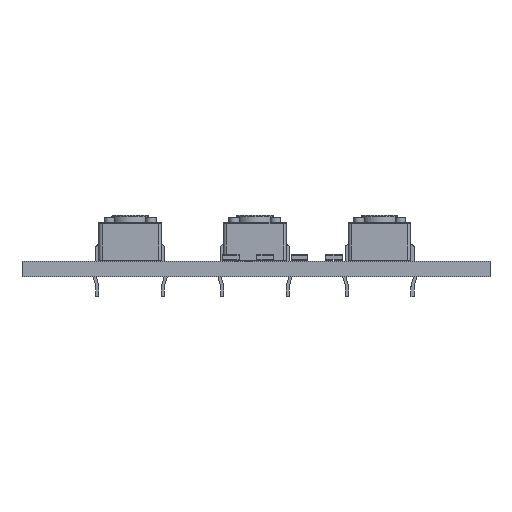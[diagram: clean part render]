
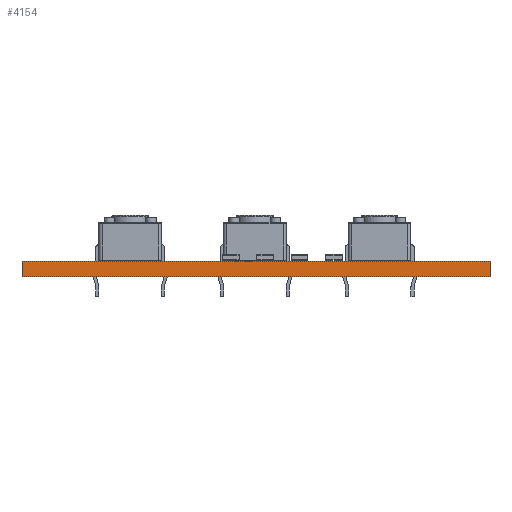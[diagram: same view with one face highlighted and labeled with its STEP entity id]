
A CAD part, front view. The second image highlights one B-rep face of the part: STEP entity #4154.
In plain terms, the highlighted planar face has unit normal (0, -1, 0).
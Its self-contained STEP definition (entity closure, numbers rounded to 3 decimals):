
#4154 = ADVANCED_FACE('',(#4155),#4189,.T.);
#4155 = FACE_BOUND('',#4156,.T.);
#4156 = EDGE_LOOP('',(#4157,#4167,#4175,#4183));
#4157 = ORIENTED_EDGE('',*,*,#4158,.T.);
#4158 = EDGE_CURVE('',#4159,#4161,#4163,.T.);
#4159 = VERTEX_POINT('',#4160);
#4160 = CARTESIAN_POINT('',(169.5,-190.5,0.));
#4161 = VERTEX_POINT('',#4162);
#4162 = CARTESIAN_POINT('',(169.5,-190.5,1.51));
#4163 = LINE('',#4164,#4165);
#4164 = CARTESIAN_POINT('',(169.5,-190.5,0.));
#4165 = VECTOR('',#4166,1.);
#4166 = DIRECTION('',(0.,0.,1.));
#4167 = ORIENTED_EDGE('',*,*,#4168,.T.);
#4168 = EDGE_CURVE('',#4161,#4169,#4171,.T.);
#4169 = VERTEX_POINT('',#4170);
#4170 = CARTESIAN_POINT('',(124.5,-190.5,1.51));
#4171 = LINE('',#4172,#4173);
#4172 = CARTESIAN_POINT('',(169.5,-190.5,1.51));
#4173 = VECTOR('',#4174,1.);
#4174 = DIRECTION('',(-1.,0.,0.));
#4175 = ORIENTED_EDGE('',*,*,#4176,.F.);
#4176 = EDGE_CURVE('',#4177,#4169,#4179,.T.);
#4177 = VERTEX_POINT('',#4178);
#4178 = CARTESIAN_POINT('',(124.5,-190.5,0.));
#4179 = LINE('',#4180,#4181);
#4180 = CARTESIAN_POINT('',(124.5,-190.5,0.));
#4181 = VECTOR('',#4182,1.);
#4182 = DIRECTION('',(0.,0.,1.));
#4183 = ORIENTED_EDGE('',*,*,#4184,.F.);
#4184 = EDGE_CURVE('',#4159,#4177,#4185,.T.);
#4185 = LINE('',#4186,#4187);
#4186 = CARTESIAN_POINT('',(169.5,-190.5,0.));
#4187 = VECTOR('',#4188,1.);
#4188 = DIRECTION('',(-1.,0.,0.));
#4189 = PLANE('',#4190);
#4190 = AXIS2_PLACEMENT_3D('',#4191,#4192,#4193);
#4191 = CARTESIAN_POINT('',(169.5,-190.5,0.));
#4192 = DIRECTION('',(0.,-1.,0.));
#4193 = DIRECTION('',(-1.,0.,0.));
